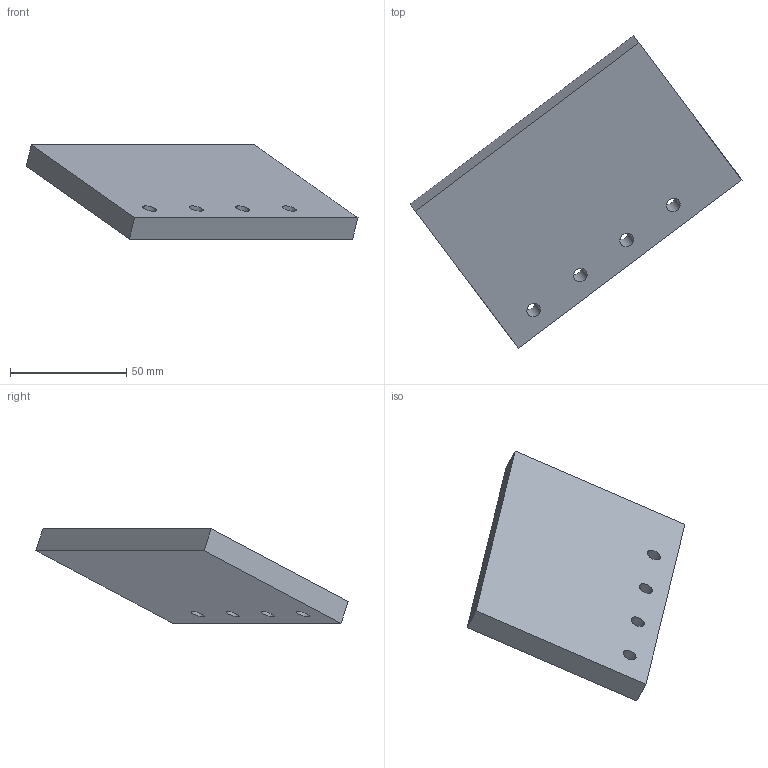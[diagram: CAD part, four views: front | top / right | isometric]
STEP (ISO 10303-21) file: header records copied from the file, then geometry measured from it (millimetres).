
FILE_DESCRIPTION(('FreeCAD Model'),'2;1');
FILE_NAME('Open CASCADE Shape Model','2026-09-11T22:23:41',('FreeCAD'),( 'FreeCAD'),'Open CASCADE STEP processor 7.8','FreeCAD','Unknown');
FILE_SCHEMA(('AUTOMOTIVE_DESIGN { 1 0 10303 214 1 1 1 1 }'));
Length unit declared in the file: millimetre
Products named in the file (1): Open CASCADE STEP translator 7.8 10
Bounding box: 142.51 x 134.15 x 40.46 mm (x, y, z)
Volume: 94869 mm3; surface area: 23727.8 mm2
Topology: 1 solids, 1 shells, 10 faces, 24 edges, 16 vertices
Faces by surface type: plane 6, cylinder 4
Full cylindrical faces by diameter (mm): 6 x4
Entity records: 322 total; most frequent: DIRECTION 54, CARTESIAN_POINT 51, ORIENTED_EDGE 48, EDGE_CURVE 24, AXIS2_PLACEMENT_3D 19, FACE_BOUND 18, EDGE_LOOP 18, VERTEX_POINT 16
